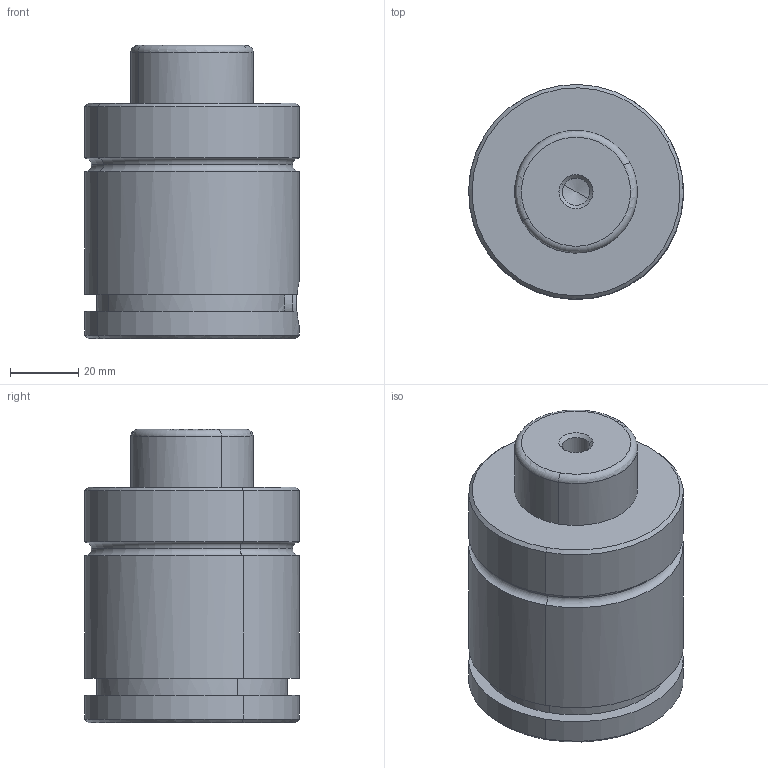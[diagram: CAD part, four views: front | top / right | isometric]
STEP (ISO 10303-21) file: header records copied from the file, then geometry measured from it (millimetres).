
FILE_DESCRIPTION(('FreeCAD Model'),'2;1');
FILE_NAME('Open CASCADE Shape Model','2024-11-12T11:48:54',('Author'),( ''),'Open CASCADE STEP processor 7.6','FreeCAD','Unknown');
FILE_SCHEMA(('AUTOMOTIVE_DESIGN { 1 0 10303 214 1 1 1 1 }'));
Length unit declared in the file: millimetre
Products named in the file (2): Part001; Cut
Assembly tree (1 placements, depth 2):
  Part001
    Cut
Bounding box: 63 x 62.98 x 86 mm (x, y, z)
Volume: 223956.2 mm3; surface area: 27765.5 mm2
Topology: 3 solids, 3 shells, 109 faces, 232 edges, 132 vertices
Faces by surface type: cone 48, cylinder 31, plane 22, torus 8
Full cylindrical faces by diameter (mm): 8 x4
Entity records: 3450 total; most frequent: CARTESIAN_POINT 1129, DIRECTION 484, ORIENTED_EDGE 448, EDGE_CURVE 224, AXIS2_PLACEMENT_3D 195, VERTEX_POINT 132, FACE_BOUND 120, EDGE_LOOP 120
